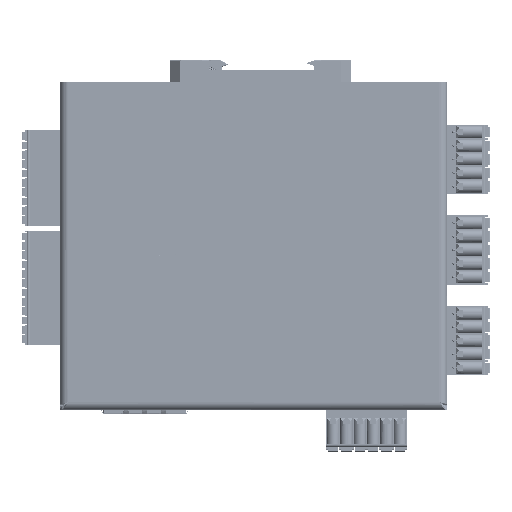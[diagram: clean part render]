
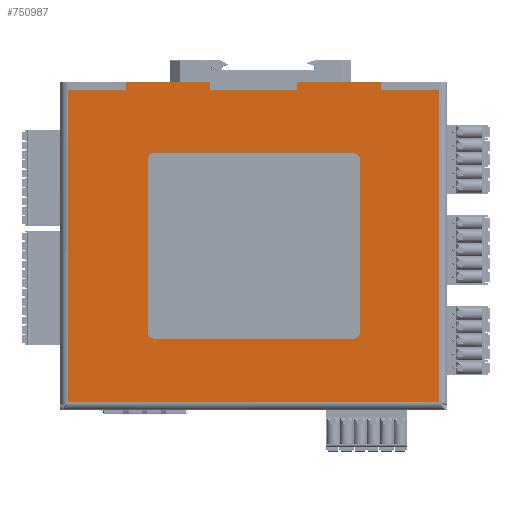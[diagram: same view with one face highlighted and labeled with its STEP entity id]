
A CAD part, top view. The second image highlights one B-rep face of the part: STEP entity #750987.
In plain terms, the highlighted planar face has unit normal (0, 0, 1) as drawn and (0, 1, 0) by its records, which use the part's own axes.
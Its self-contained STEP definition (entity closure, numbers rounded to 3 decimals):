
#2544 = DIRECTION ( 'NONE',  ( 0., 0., 1. ) ) ;
#32318 = CARTESIAN_POINT ( 'NONE',  ( 0., 1.5, -64.1 ) ) ;
#34298 = CARTESIAN_POINT ( 'NONE',  ( 0., 1.5, -61. ) ) ;
#46300 = AXIS2_PLACEMENT_3D ( 'NONE', #361621, #654283, #430737 ) ;
#48198 = DIRECTION ( 'NONE',  ( 1., 0., 0. ) ) ;
#54493 = CIRCLE ( 'NONE', #484444, 3.1 ) ;
#65829 = VERTEX_POINT ( 'NONE', #32318 ) ;
#70318 = CARTESIAN_POINT ( 'NONE',  ( -69.5, 1.5, -118.5 ) ) ;
#72091 = EDGE_CURVE ( 'NONE', #676344, #266597, #516294, .T. ) ;
#80131 = DIRECTION ( 'NONE',  ( 0., 0., 1. ) ) ;
#80777 = DIRECTION ( 'NONE',  ( -1., 0., 0. ) ) ;
#95765 = EDGE_CURVE ( 'NONE', #709913, #487514, #434068, .T. ) ;
#98915 = CARTESIAN_POINT ( 'NONE',  ( -69.5, 1.5, -1.5 ) ) ;
#110762 = VECTOR ( 'NONE', #80777, 1000. ) ;
#116357 = VERTEX_POINT ( 'NONE', #257673 ) ;
#153073 = LINE ( 'NONE', #741882, #298858 ) ;
#157286 = DIRECTION ( 'NONE',  ( 0., 0., 1. ) ) ;
#159305 = EDGE_CURVE ( 'NONE', #188021, #665606, #509153, .T. ) ;
#159800 = LINE ( 'NONE', #575298, #728496 ) ;
#161783 = LINE ( 'NONE', #396424, #638658 ) ;
#169207 = EDGE_CURVE ( 'NONE', #497158, #422297, #398175, .T. ) ;
#169604 = CARTESIAN_POINT ( 'NONE',  ( 0., 1.5, -57.9 ) ) ;
#172367 = DIRECTION ( 'NONE',  ( 0., 0., -1. ) ) ;
#175813 = LINE ( 'NONE', #414154, #513967 ) ;
#181419 = CARTESIAN_POINT ( 'NONE',  ( -47.75, 1.5, -118.5 ) ) ;
#183549 = ORIENTED_EDGE ( 'NONE', *, *, #249906, .F. ) ;
#188021 = VERTEX_POINT ( 'NONE', #98915 ) ;
#196268 = LINE ( 'NONE', #669606, #110762 ) ;
#205411 = DIRECTION ( 'NONE',  ( 1., 0., 0. ) ) ;
#208716 = CARTESIAN_POINT ( 'NONE',  ( -16.25, 1.5, -118.5 ) ) ;
#218376 = VECTOR ( 'NONE', #370683, 1000. ) ;
#226800 = VERTEX_POINT ( 'NONE', #322919 ) ;
#233826 = EDGE_CURVE ( 'NONE', #401290, #676344, #175813, .T. ) ;
#235226 = EDGE_CURVE ( 'NONE', #709913, #226800, #161783, .T. ) ;
#239151 = EDGE_CURVE ( 'NONE', #422297, #116357, #153073, .T. ) ;
#244871 = CARTESIAN_POINT ( 'NONE',  ( 0., 1.5, -61. ) ) ;
#249906 = EDGE_CURVE ( 'NONE', #517732, #65829, #553841, .T. ) ;
#256683 = EDGE_CURVE ( 'NONE', #65829, #517732, #54493, .T. ) ;
#256710 = ORIENTED_EDGE ( 'NONE', *, *, #239151, .F. ) ;
#257673 = CARTESIAN_POINT ( 'NONE',  ( -47.75, 1.5, -121.5 ) ) ;
#266597 = VERTEX_POINT ( 'NONE', #669856 ) ;
#279069 = DIRECTION ( 'NONE',  ( 0., 0., -1. ) ) ;
#290741 = CARTESIAN_POINT ( 'NONE',  ( -69.5, 1.5, -118.5 ) ) ;
#298858 = VECTOR ( 'NONE', #684245, 1000. ) ;
#305513 = ORIENTED_EDGE ( 'NONE', *, *, #169207, .F. ) ;
#306281 = VECTOR ( 'NONE', #48198, 1000. ) ;
#322919 = CARTESIAN_POINT ( 'NONE',  ( 16.25, 1.5, -121.5 ) ) ;
#329187 = ORIENTED_EDGE ( 'NONE', *, *, #233826, .F. ) ;
#342861 = CARTESIAN_POINT ( 'NONE',  ( 69.5, 1.5, -1.5 ) ) ;
#361621 = CARTESIAN_POINT ( 'NONE',  ( 0., 1.5, 0. ) ) ;
#365276 = EDGE_LOOP ( 'NONE', ( #183549, #525810 ) ) ;
#370683 = DIRECTION ( 'NONE',  ( 1., 0., 0. ) ) ;
#377927 = ORIENTED_EDGE ( 'NONE', *, *, #517277, .F. ) ;
#392752 = ORIENTED_EDGE ( 'NONE', *, *, #547147, .T. ) ;
#396424 = CARTESIAN_POINT ( 'NONE',  ( -71., 1.5, -121.5 ) ) ;
#398175 = LINE ( 'NONE', #633065, #306281 ) ;
#401290 = VERTEX_POINT ( 'NONE', #468417 ) ;
#409003 = LINE ( 'NONE', #70318, #688834 ) ;
#411807 = VECTOR ( 'NONE', #678246, 1000. ) ;
#414154 = CARTESIAN_POINT ( 'NONE',  ( -16.25, 1.5, -127.376 ) ) ;
#419345 = PLANE ( 'NONE',  #46300 ) ;
#421178 = CARTESIAN_POINT ( 'NONE',  ( 16.25, 1.5, -127.376 ) ) ;
#422297 = VERTEX_POINT ( 'NONE', #181419 ) ;
#430737 = DIRECTION ( 'NONE',  ( 0., 0., 1. ) ) ;
#434068 = LINE ( 'NONE', #603586, #753020 ) ;
#434549 = FACE_OUTER_BOUND ( 'NONE', #664265, .T. ) ;
#444118 = VERTEX_POINT ( 'NONE', #453894 ) ;
#453894 = CARTESIAN_POINT ( 'NONE',  ( 69.5, 1.5, -118.5 ) ) ;
#465184 = ORIENTED_EDGE ( 'NONE', *, *, #95765, .F. ) ;
#468375 = EDGE_CURVE ( 'NONE', #497158, #188021, #409003, .T. ) ;
#468417 = CARTESIAN_POINT ( 'NONE',  ( -16.25, 1.5, -121.5 ) ) ;
#469006 = EDGE_CURVE ( 'NONE', #401290, #116357, #196268, .T. ) ;
#474380 = DIRECTION ( 'NONE',  ( 0., 0., 1. ) ) ;
#481790 = EDGE_CURVE ( 'NONE', #487514, #444118, #497633, .T. ) ;
#484444 = AXIS2_PLACEMENT_3D ( 'NONE', #34298, #565260, #157286 ) ;
#487514 = VERTEX_POINT ( 'NONE', #588845 ) ;
#497158 = VERTEX_POINT ( 'NONE', #290741 ) ;
#497633 = LINE ( 'NONE', #732488, #218376 ) ;
#509153 = LINE ( 'NONE', #667291, #710409 ) ;
#513967 = VECTOR ( 'NONE', #583718, 1000. ) ;
#516294 = LINE ( 'NONE', #208716, #411807 ) ;
#517277 = EDGE_CURVE ( 'NONE', #266597, #226800, #699705, .T. ) ;
#517732 = VERTEX_POINT ( 'NONE', #169604 ) ;
#520011 = ORIENTED_EDGE ( 'NONE', *, *, #468375, .T. ) ;
#521069 = ORIENTED_EDGE ( 'NONE', *, *, #72091, .F. ) ;
#525810 = ORIENTED_EDGE ( 'NONE', *, *, #256683, .F. ) ;
#529716 = ORIENTED_EDGE ( 'NONE', *, *, #469006, .T. ) ;
#547147 = EDGE_CURVE ( 'NONE', #665606, #444118, #159800, .T. ) ;
#553841 = CIRCLE ( 'NONE', #652193, 3.1 ) ;
#553943 = FACE_BOUND ( 'NONE', #365276, .T. ) ;
#565260 = DIRECTION ( 'NONE',  ( 0., 1., 0. ) ) ;
#575298 = CARTESIAN_POINT ( 'NONE',  ( 69.5, 1.5, -1.5 ) ) ;
#583718 = DIRECTION ( 'NONE',  ( 0., 0., 1. ) ) ;
#588845 = CARTESIAN_POINT ( 'NONE',  ( 47.75, 1.5, -118.5 ) ) ;
#594584 = CARTESIAN_POINT ( 'NONE',  ( 47.75, 1.5, -121.5 ) ) ;
#596619 = ORIENTED_EDGE ( 'NONE', *, *, #159305, .T. ) ;
#603586 = CARTESIAN_POINT ( 'NONE',  ( 47.75, 1.5, -127.376 ) ) ;
#631304 = DIRECTION ( 'NONE',  ( -1., 0., 0. ) ) ;
#633065 = CARTESIAN_POINT ( 'NONE',  ( -86.244, 1.5, -118.5 ) ) ;
#638658 = VECTOR ( 'NONE', #631304, 1000. ) ;
#652193 = AXIS2_PLACEMENT_3D ( 'NONE', #244871, #656607, #2544 ) ;
#654283 = DIRECTION ( 'NONE',  ( 0., 1., 0. ) ) ;
#656607 = DIRECTION ( 'NONE',  ( 0., 1., 0. ) ) ;
#663886 = ORIENTED_EDGE ( 'NONE', *, *, #235226, .T. ) ;
#664265 = EDGE_LOOP ( 'NONE', ( #596619, #392752, #701667, #465184, #663886, #377927, #521069, #329187, #529716, #256710, #305513, #520011 ) ) ;
#665606 = VERTEX_POINT ( 'NONE', #342861 ) ;
#667291 = CARTESIAN_POINT ( 'NONE',  ( -71., 1.5, -1.5 ) ) ;
#669606 = CARTESIAN_POINT ( 'NONE',  ( -71., 1.5, -121.5 ) ) ;
#669856 = CARTESIAN_POINT ( 'NONE',  ( 16.25, 1.5, -118.5 ) ) ;
#676344 = VERTEX_POINT ( 'NONE', #693837 ) ;
#678246 = DIRECTION ( 'NONE',  ( 1., 0., 0. ) ) ;
#684245 = DIRECTION ( 'NONE',  ( 0., 0., -1. ) ) ;
#688834 = VECTOR ( 'NONE', #474380, 1000. ) ;
#693837 = CARTESIAN_POINT ( 'NONE',  ( -16.25, 1.5, -118.5 ) ) ;
#699705 = LINE ( 'NONE', #421178, #719832 ) ;
#701667 = ORIENTED_EDGE ( 'NONE', *, *, #481790, .F. ) ;
#709913 = VERTEX_POINT ( 'NONE', #594584 ) ;
#710409 = VECTOR ( 'NONE', #205411, 1000. ) ;
#719832 = VECTOR ( 'NONE', #172367, 1000. ) ;
#728496 = VECTOR ( 'NONE', #279069, 1000. ) ;
#732488 = CARTESIAN_POINT ( 'NONE',  ( 47.75, 1.5, -118.5 ) ) ;
#741882 = CARTESIAN_POINT ( 'NONE',  ( -47.75, 1.5, -127.376 ) ) ;
#750987 = ADVANCED_FACE ( 'NONE', ( #553943, #434549 ), #419345, .T. ) ;
#753020 = VECTOR ( 'NONE', #80131, 1000. ) ;
